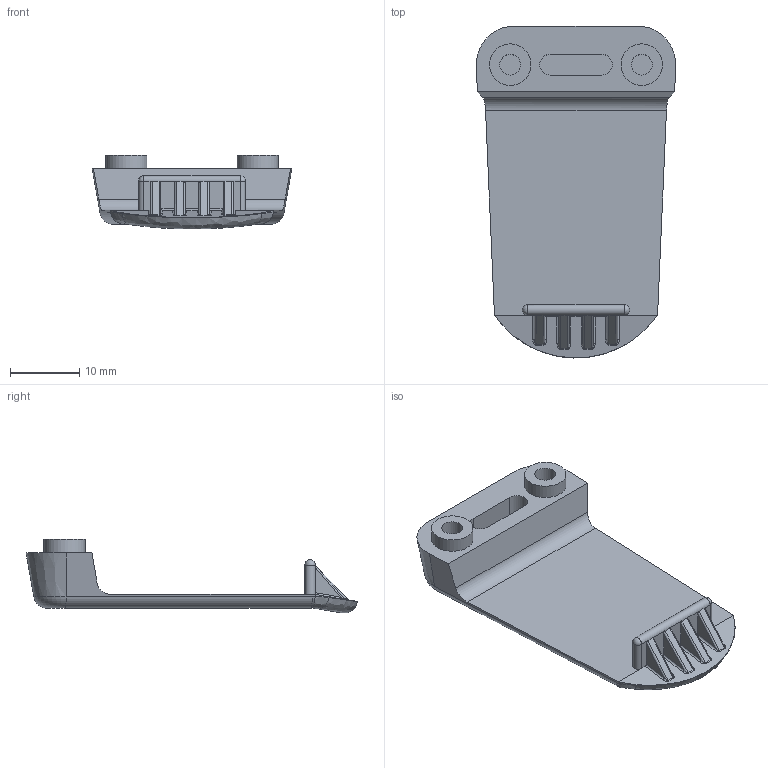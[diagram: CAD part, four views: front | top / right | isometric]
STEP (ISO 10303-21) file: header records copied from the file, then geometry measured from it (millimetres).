
FILE_DESCRIPTION((''),'2;1');
FILE_NAME('E:\Eng\Customer Service\Drawings\1599\STEP\1599CLIP.stp','2011-12-12T11:51:38',('lwalsh'),(''),'Autodesk Inventor 2012','Autodesk Inventor 2012','');
FILE_SCHEMA(('AUTOMOTIVE_DESIGN { 1 0 10303 214 1 1 1 1 }'));
Length unit declared in the file: millimetre
Products named in the file (1): CLIP-1599
Bounding box: 28.81 x 47.93 x 10.67 mm (x, y, z)
Volume: 3640 mm3; surface area: 3394.7 mm2
Topology: 1 solids, 1 shells, 91 faces, 217 edges, 132 vertices
Faces by surface type: cylinder 37, plane 34, bspline 13, cone 3, sphere 2, torus 2
Full cylindrical faces by diameter (mm): 3 x2, 6 x2
Entity records: 2935 total; most frequent: CARTESIAN_POINT 837, DIRECTION 443, ORIENTED_EDGE 420, EDGE_CURVE 210, AXIS2_PLACEMENT_3D 170, VERTEX_POINT 130, VECTOR 103, LINE 103
